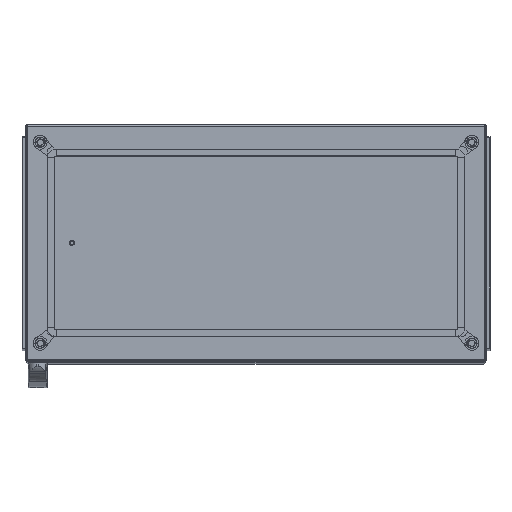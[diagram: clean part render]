
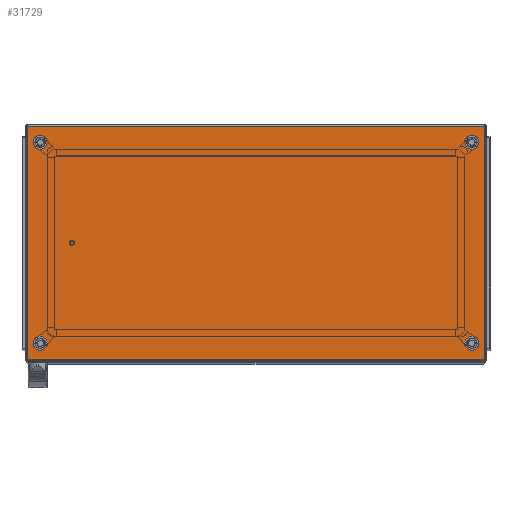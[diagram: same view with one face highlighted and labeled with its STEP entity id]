
A CAD part, top view. The second image highlights one B-rep face of the part: STEP entity #31729.
In plain terms, the highlighted planar face has unit normal (0, 0, 1).
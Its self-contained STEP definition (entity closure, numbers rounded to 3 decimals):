
#1540=CIRCLE('',#34071,6.);
#1541=CIRCLE('',#34072,6.);
#1542=CIRCLE('',#34073,6.);
#1543=CIRCLE('',#34074,6.);
#6057=ORIENTED_EDGE('',*,*,#13510,.F.);
#6058=ORIENTED_EDGE('',*,*,#13511,.F.);
#6059=ORIENTED_EDGE('',*,*,#13512,.F.);
#6060=ORIENTED_EDGE('',*,*,#13513,.F.);
#6061=ORIENTED_EDGE('',*,*,#13483,.T.);
#6062=ORIENTED_EDGE('',*,*,#13505,.T.);
#6063=ORIENTED_EDGE('',*,*,#13492,.F.);
#6064=ORIENTED_EDGE('',*,*,#13514,.F.);
#13483=EDGE_CURVE('',#17468,#17470,#20682,.T.);
#13492=EDGE_CURVE('',#17476,#17477,#20686,.T.);
#13505=EDGE_CURVE('',#17470,#17477,#20692,.T.);
#13510=EDGE_CURVE('',#17483,#17483,#1540,.T.);
#13511=EDGE_CURVE('',#17484,#17484,#1541,.T.);
#13512=EDGE_CURVE('',#17485,#17485,#1542,.T.);
#13513=EDGE_CURVE('',#17486,#17486,#1543,.T.);
#13514=EDGE_CURVE('',#17468,#17476,#20695,.T.);
#17468=VERTEX_POINT('',#49401);
#17470=VERTEX_POINT('',#49405);
#17476=VERTEX_POINT('',#49423);
#17477=VERTEX_POINT('',#49425);
#17483=VERTEX_POINT('',#49454);
#17484=VERTEX_POINT('',#49456);
#17485=VERTEX_POINT('',#49458);
#17486=VERTEX_POINT('',#49460);
#20682=LINE('',#49406,#23469);
#20686=LINE('',#49424,#23473);
#20692=LINE('',#49446,#23479);
#20695=LINE('',#49461,#23482);
#23469=VECTOR('',#39726,1000.);
#23473=VECTOR('',#39746,1000.);
#23479=VECTOR('',#39772,1000.);
#23482=VECTOR('',#39791,1000.);
#25830=EDGE_LOOP('',(#6057));
#25831=EDGE_LOOP('',(#6058));
#25832=EDGE_LOOP('',(#6059));
#25833=EDGE_LOOP('',(#6060));
#25834=EDGE_LOOP('',(#6061,#6062,#6063,#6064));
#28416=FACE_BOUND('',#25830,.T.);
#28417=FACE_BOUND('',#25831,.T.);
#28418=FACE_BOUND('',#25832,.T.);
#28419=FACE_BOUND('',#25833,.T.);
#28420=FACE_BOUND('',#25834,.T.);
#30617=PLANE('',#34070);
#31729=ADVANCED_FACE('',(#28416,#28417,#28418,#28419,#28420),#30617,.T.);
#34070=AXIS2_PLACEMENT_3D('',#49452,#39781,#39782);
#34071=AXIS2_PLACEMENT_3D('',#49453,#39783,#39784);
#34072=AXIS2_PLACEMENT_3D('',#49455,#39785,#39786);
#34073=AXIS2_PLACEMENT_3D('',#49457,#39787,#39788);
#34074=AXIS2_PLACEMENT_3D('',#49459,#39789,#39790);
#39726=DIRECTION('',(-1.,0.,0.));
#39746=DIRECTION('',(-1.,0.,0.));
#39772=DIRECTION('',(0.,-1.,0.));
#39781=DIRECTION('',(0.,0.,1.));
#39782=DIRECTION('',(1.,0.,0.));
#39783=DIRECTION('',(0.,0.,1.));
#39784=DIRECTION('',(1.,0.,0.));
#39785=DIRECTION('',(0.,0.,1.));
#39786=DIRECTION('',(1.,0.,0.));
#39787=DIRECTION('',(0.,0.,1.));
#39788=DIRECTION('',(1.,0.,0.));
#39789=DIRECTION('',(0.,0.,1.));
#39790=DIRECTION('',(1.,0.,0.));
#39791=DIRECTION('',(0.,-1.,0.));
#49401=CARTESIAN_POINT('',(396.5,202.5,20.));
#49405=CARTESIAN_POINT('',(-396.5,202.5,20.));
#49406=CARTESIAN_POINT('',(400.,202.5,20.));
#49423=CARTESIAN_POINT('',(396.5,-202.5,20.));
#49424=CARTESIAN_POINT('',(400.,-202.5,20.));
#49425=CARTESIAN_POINT('',(-396.5,-202.5,20.));
#49446=CARTESIAN_POINT('',(-396.5,205.5,20.));
#49452=CARTESIAN_POINT('',(-396.5,-202.5,20.));
#49453=CARTESIAN_POINT('',(374.5,-174.5,20.));
#49454=CARTESIAN_POINT('',(380.5,-174.5,20.));
#49455=CARTESIAN_POINT('',(-374.5,174.5,20.));
#49456=CARTESIAN_POINT('',(-368.5,174.5,20.));
#49457=CARTESIAN_POINT('',(374.5,174.5,20.));
#49458=CARTESIAN_POINT('',(380.5,174.5,20.));
#49459=CARTESIAN_POINT('',(-374.5,-174.5,20.));
#49460=CARTESIAN_POINT('',(-368.5,-174.5,20.));
#49461=CARTESIAN_POINT('',(396.5,205.5,20.));
